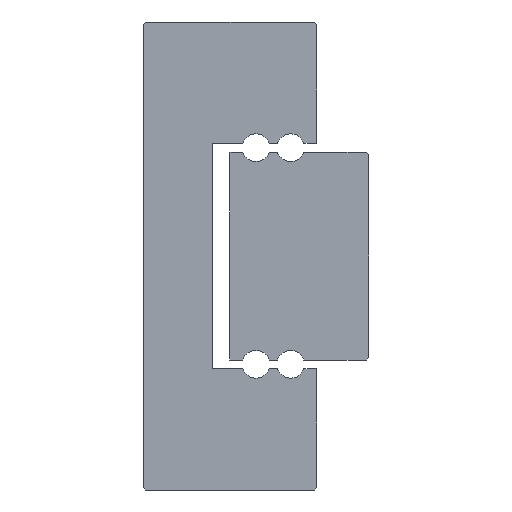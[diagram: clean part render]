
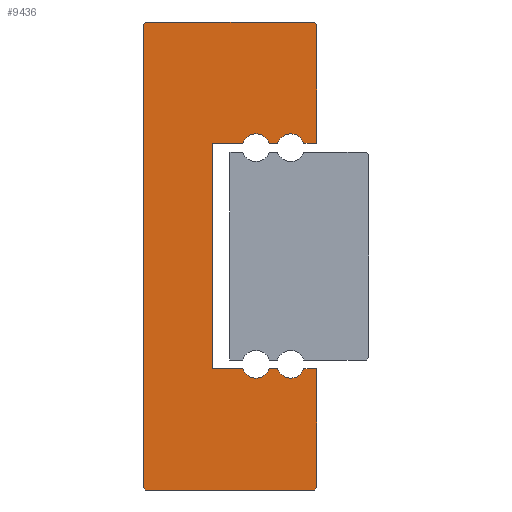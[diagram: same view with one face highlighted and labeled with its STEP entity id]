
A CAD part, left-side view. The second image highlights one B-rep face of the part: STEP entity #9436.
In plain terms, the highlighted planar face has unit normal (-1, 0, 0).
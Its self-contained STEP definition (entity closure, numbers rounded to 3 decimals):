
#312=CIRCLE('',#10254,0.8);
#314=CIRCLE('',#10258,0.8);
#316=CIRCLE('',#10264,0.8);
#318=CIRCLE('',#10268,0.8);
#1593=ORIENTED_EDGE('',*,*,#3954,.F.);
#1594=ORIENTED_EDGE('',*,*,#4402,.F.);
#1595=ORIENTED_EDGE('',*,*,#4399,.F.);
#1596=ORIENTED_EDGE('',*,*,#4388,.F.);
#1597=ORIENTED_EDGE('',*,*,#4385,.F.);
#1598=ORIENTED_EDGE('',*,*,#4382,.F.);
#1599=ORIENTED_EDGE('',*,*,#4379,.F.);
#1600=ORIENTED_EDGE('',*,*,#4376,.F.);
#1601=ORIENTED_EDGE('',*,*,#4373,.T.);
#1602=ORIENTED_EDGE('',*,*,#4370,.F.);
#1603=ORIENTED_EDGE('',*,*,#4367,.T.);
#1604=ORIENTED_EDGE('',*,*,#4364,.F.);
#1605=ORIENTED_EDGE('',*,*,#4361,.F.);
#1606=ORIENTED_EDGE('',*,*,#4358,.F.);
#1607=ORIENTED_EDGE('',*,*,#4355,.T.);
#1608=ORIENTED_EDGE('',*,*,#4352,.F.);
#1609=ORIENTED_EDGE('',*,*,#4349,.T.);
#1610=ORIENTED_EDGE('',*,*,#4346,.F.);
#1611=ORIENTED_EDGE('',*,*,#4343,.F.);
#1612=ORIENTED_EDGE('',*,*,#4340,.F.);
#3954=EDGE_CURVE('',#5394,#5395,#6368,.T.);
#4340=EDGE_CURVE('',#5395,#5780,#6506,.T.);
#4343=EDGE_CURVE('',#5780,#5782,#6509,.T.);
#4346=EDGE_CURVE('',#5782,#5784,#6512,.T.);
#4349=EDGE_CURVE('',#5786,#5784,#312,.T.);
#4352=EDGE_CURVE('',#5786,#5788,#6516,.T.);
#4355=EDGE_CURVE('',#5790,#5788,#314,.T.);
#4358=EDGE_CURVE('',#5790,#5792,#6520,.T.);
#4361=EDGE_CURVE('',#5792,#5794,#6523,.T.);
#4364=EDGE_CURVE('',#5794,#5796,#6526,.T.);
#4367=EDGE_CURVE('',#5798,#5796,#316,.T.);
#4370=EDGE_CURVE('',#5798,#5800,#6530,.T.);
#4373=EDGE_CURVE('',#5802,#5800,#318,.T.);
#4376=EDGE_CURVE('',#5802,#5804,#6534,.T.);
#4379=EDGE_CURVE('',#5804,#5806,#6537,.T.);
#4382=EDGE_CURVE('',#5806,#5808,#6540,.T.);
#4385=EDGE_CURVE('',#5808,#5810,#6543,.T.);
#4388=EDGE_CURVE('',#5810,#5812,#6546,.T.);
#4399=EDGE_CURVE('',#5812,#5822,#6549,.T.);
#4402=EDGE_CURVE('',#5822,#5394,#6552,.T.);
#5394=VERTEX_POINT('',#14429);
#5395=VERTEX_POINT('',#14430);
#5780=VERTEX_POINT('',#15202);
#5782=VERTEX_POINT('',#15208);
#5784=VERTEX_POINT('',#15214);
#5786=VERTEX_POINT('',#15220);
#5788=VERTEX_POINT('',#15226);
#5790=VERTEX_POINT('',#15232);
#5792=VERTEX_POINT('',#15238);
#5794=VERTEX_POINT('',#15244);
#5796=VERTEX_POINT('',#15250);
#5798=VERTEX_POINT('',#15256);
#5800=VERTEX_POINT('',#15262);
#5802=VERTEX_POINT('',#15268);
#5804=VERTEX_POINT('',#15274);
#5806=VERTEX_POINT('',#15280);
#5808=VERTEX_POINT('',#15286);
#5810=VERTEX_POINT('',#15292);
#5812=VERTEX_POINT('',#15298);
#5822=VERTEX_POINT('',#15320);
#6368=LINE('',#14428,#7184);
#6506=LINE('',#15201,#7322);
#6509=LINE('',#15207,#7325);
#6512=LINE('',#15213,#7328);
#6516=LINE('',#15225,#7332);
#6520=LINE('',#15237,#7336);
#6523=LINE('',#15243,#7339);
#6526=LINE('',#15249,#7342);
#6530=LINE('',#15261,#7346);
#6534=LINE('',#15273,#7350);
#6537=LINE('',#15279,#7353);
#6540=LINE('',#15285,#7356);
#6543=LINE('',#15291,#7359);
#6546=LINE('',#15297,#7362);
#6549=LINE('',#15319,#7365);
#6552=LINE('',#15325,#7368);
#7184=VECTOR('',#11265,1000.);
#7322=VECTOR('',#11901,1000.);
#7325=VECTOR('',#11906,1000.);
#7328=VECTOR('',#11911,1000.);
#7332=VECTOR('',#11923,1000.);
#7336=VECTOR('',#11935,1000.);
#7339=VECTOR('',#11940,1000.);
#7342=VECTOR('',#11945,1000.);
#7346=VECTOR('',#11957,1000.);
#7350=VECTOR('',#11969,1000.);
#7353=VECTOR('',#11974,1000.);
#7356=VECTOR('',#11979,1000.);
#7359=VECTOR('',#11984,1000.);
#7362=VECTOR('',#11989,1000.);
#7365=VECTOR('',#12010,1000.);
#7368=VECTOR('',#12015,1000.);
#8058=EDGE_LOOP('',(#1593,#1594,#1595,#1596,#1597,#1598,#1599,#1600,#1601,
#1602,#1603,#1604,#1605,#1606,#1607,#1608,#1609,#1610,#1611,#1612));
#8663=FACE_BOUND('',#8058,.T.);
#9206=PLANE('',#10286);
#9436=ADVANCED_FACE('',(#8663),#9206,.F.);
#10254=AXIS2_PLACEMENT_3D('',#15219,#11916,#11917);
#10258=AXIS2_PLACEMENT_3D('',#15231,#11928,#11929);
#10264=AXIS2_PLACEMENT_3D('',#15255,#11950,#11951);
#10268=AXIS2_PLACEMENT_3D('',#15267,#11962,#11963);
#10286=AXIS2_PLACEMENT_3D('',#15328,#12019,#12020);
#11265=DIRECTION('',(0.,-1.,0.));
#11901=DIRECTION('',(0.,-0.707,-0.707));
#11906=DIRECTION('',(0.,0.,-1.));
#11911=DIRECTION('',(0.,1.,0.));
#11916=DIRECTION('',(1.,0.,0.));
#11917=DIRECTION('',(0.,0.,-1.));
#11923=DIRECTION('',(0.,1.,0.));
#11928=DIRECTION('',(1.,0.,0.));
#11929=DIRECTION('',(0.,0.,-1.));
#11935=DIRECTION('',(0.,1.,0.));
#11940=DIRECTION('',(0.,0.,-1.));
#11945=DIRECTION('',(0.,-1.,0.));
#11950=DIRECTION('',(1.,0.,0.));
#11951=DIRECTION('',(0.,0.,-1.));
#11957=DIRECTION('',(0.,-1.,0.));
#11962=DIRECTION('',(1.,0.,0.));
#11963=DIRECTION('',(0.,0.,-1.));
#11969=DIRECTION('',(0.,-1.,0.));
#11974=DIRECTION('',(0.,0.,-1.));
#11979=DIRECTION('',(0.,0.707,-0.707));
#11984=DIRECTION('',(0.,1.,0.));
#11989=DIRECTION('',(0.,0.707,0.707));
#12010=DIRECTION('',(0.,0.,1.));
#12015=DIRECTION('',(0.,-0.707,0.707));
#12019=DIRECTION('',(1.,0.,0.));
#12020=DIRECTION('',(0.,0.,-1.));
#14428=CARTESIAN_POINT('',(-30.,9.85,13.5));
#14429=CARTESIAN_POINT('',(-30.,9.85,13.5));
#14430=CARTESIAN_POINT('',(-30.,0.15,13.5));
#15201=CARTESIAN_POINT('',(-30.,0.15,13.5));
#15202=CARTESIAN_POINT('',(-30.,0.,13.35));
#15207=CARTESIAN_POINT('',(-30.,0.,13.35));
#15208=CARTESIAN_POINT('',(-30.,0.,6.5));
#15213=CARTESIAN_POINT('',(-30.,0.,6.5));
#15214=CARTESIAN_POINT('',(-30.,0.74,6.5));
#15219=CARTESIAN_POINT('',(-30.,1.5,6.25));
#15220=CARTESIAN_POINT('',(-30.,2.26,6.5));
#15225=CARTESIAN_POINT('',(-30.,2.26,6.5));
#15226=CARTESIAN_POINT('',(-30.,2.74,6.5));
#15231=CARTESIAN_POINT('',(-30.,3.5,6.25));
#15232=CARTESIAN_POINT('',(-30.,4.26,6.5));
#15237=CARTESIAN_POINT('',(-30.,4.26,6.5));
#15238=CARTESIAN_POINT('',(-30.,6.,6.5));
#15243=CARTESIAN_POINT('',(-30.,6.,6.5));
#15244=CARTESIAN_POINT('',(-30.,6.,-6.5));
#15249=CARTESIAN_POINT('',(-30.,6.,-6.5));
#15250=CARTESIAN_POINT('',(-30.,4.26,-6.5));
#15255=CARTESIAN_POINT('',(-30.,3.5,-6.25));
#15256=CARTESIAN_POINT('',(-30.,2.74,-6.5));
#15261=CARTESIAN_POINT('',(-30.,2.74,-6.5));
#15262=CARTESIAN_POINT('',(-30.,2.26,-6.5));
#15267=CARTESIAN_POINT('',(-30.,1.5,-6.25));
#15268=CARTESIAN_POINT('',(-30.,0.74,-6.5));
#15273=CARTESIAN_POINT('',(-30.,0.74,-6.5));
#15274=CARTESIAN_POINT('',(-30.,0.,-6.5));
#15279=CARTESIAN_POINT('',(-30.,0.,-6.5));
#15280=CARTESIAN_POINT('',(-30.,0.,-13.35));
#15285=CARTESIAN_POINT('',(-30.,0.,-13.35));
#15286=CARTESIAN_POINT('',(-30.,0.15,-13.5));
#15291=CARTESIAN_POINT('',(-30.,0.15,-13.5));
#15292=CARTESIAN_POINT('',(-30.,9.85,-13.5));
#15297=CARTESIAN_POINT('',(-30.,9.85,-13.5));
#15298=CARTESIAN_POINT('',(-30.,10.,-13.35));
#15319=CARTESIAN_POINT('',(-30.,10.,-13.35));
#15320=CARTESIAN_POINT('',(-30.,10.,13.35));
#15325=CARTESIAN_POINT('',(-30.,10.,13.35));
#15328=CARTESIAN_POINT('',(-30.,1.5,6.25));
